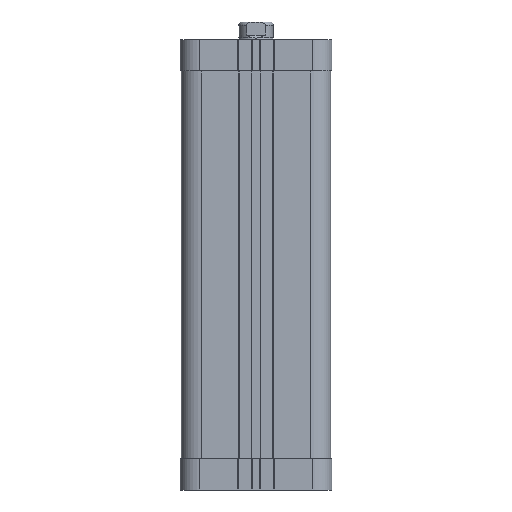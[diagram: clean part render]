
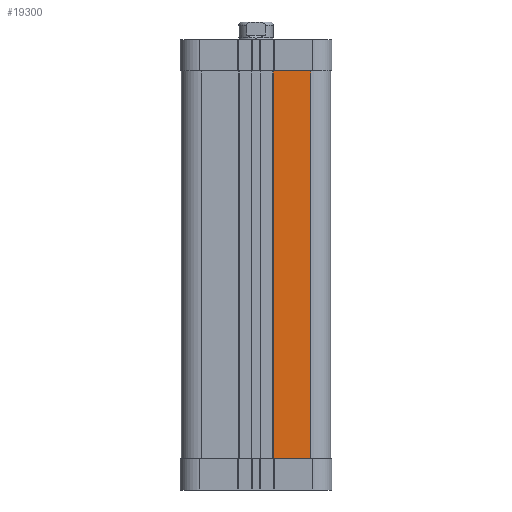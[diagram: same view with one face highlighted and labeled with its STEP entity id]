
A CAD part, left-side view. The second image highlights one B-rep face of the part: STEP entity #19300.
In plain terms, the highlighted planar face has unit normal (-1, 0, 0).
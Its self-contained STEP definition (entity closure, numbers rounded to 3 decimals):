
#2895 = CARTESIAN_POINT ( 'NONE',  ( -34., -7.925, -176.4 ) ) ;
#2925 = VECTOR ( 'NONE', #20940, 1000. ) ;
#5716 = LINE ( 'NONE', #36509, #24805 ) ;
#5834 = ORIENTED_EDGE ( 'NONE', *, *, #30930, .F. ) ;
#5850 = VERTEX_POINT ( 'NONE', #17113 ) ;
#6070 = DIRECTION ( 'NONE',  ( -1., 0., 0. ) ) ;
#9399 = CARTESIAN_POINT ( 'NONE',  ( -34., -7.925, 0. ) ) ;
#9974 = LINE ( 'NONE', #9399, #29078 ) ;
#10819 = VERTEX_POINT ( 'NONE', #34988 ) ;
#11542 = PLANE ( 'NONE',  #31408 ) ;
#11815 = EDGE_LOOP ( 'NONE', ( #5834, #29446, #22266, #19323 ) ) ;
#12114 = FACE_OUTER_BOUND ( 'NONE', #11815, .T. ) ;
#12593 = DIRECTION ( 'NONE',  ( 0., -1., 0. ) ) ;
#13264 = EDGE_CURVE ( 'NONE', #10819, #27687, #15655, .T. ) ;
#15619 = CARTESIAN_POINT ( 'NONE',  ( -34., -7.925, -176.4 ) ) ;
#15655 = LINE ( 'NONE', #15619, #2925 ) ;
#17113 = CARTESIAN_POINT ( 'NONE',  ( -34., -25., 0. ) ) ;
#19105 = EDGE_CURVE ( 'NONE', #10819, #21661, #20726, .T. ) ;
#19300 = ADVANCED_FACE ( 'NONE', ( #12114 ), #11542, .T. ) ;
#19323 = ORIENTED_EDGE ( 'NONE', *, *, #19546, .T. ) ;
#19546 = EDGE_CURVE ( 'NONE', #27687, #5850, #5716, .T. ) ;
#20726 = LINE ( 'NONE', #31255, #31712 ) ;
#20940 = DIRECTION ( 'NONE',  ( 0., -1., 0. ) ) ;
#21661 = VERTEX_POINT ( 'NONE', #28578 ) ;
#22109 = DIRECTION ( 'NONE',  ( 0., 0., 1. ) ) ;
#22266 = ORIENTED_EDGE ( 'NONE', *, *, #13264, .T. ) ;
#23305 = CARTESIAN_POINT ( 'NONE',  ( -34., -25., -176.4 ) ) ;
#24805 = VECTOR ( 'NONE', #22109, 1000. ) ;
#26398 = DIRECTION ( 'NONE',  ( 0., 0., 1. ) ) ;
#27687 = VERTEX_POINT ( 'NONE', #23305 ) ;
#28578 = CARTESIAN_POINT ( 'NONE',  ( -34., -7.925, 0. ) ) ;
#29078 = VECTOR ( 'NONE', #12593, 1000. ) ;
#29446 = ORIENTED_EDGE ( 'NONE', *, *, #19105, .F. ) ;
#30930 = EDGE_CURVE ( 'NONE', #21661, #5850, #9974, .T. ) ;
#31255 = CARTESIAN_POINT ( 'NONE',  ( -34., -7.925, -176.4 ) ) ;
#31408 = AXIS2_PLACEMENT_3D ( 'NONE', #2895, #6070, #32007 ) ;
#31712 = VECTOR ( 'NONE', #26398, 1000. ) ;
#32007 = DIRECTION ( 'NONE',  ( 0., -1., 0. ) ) ;
#34988 = CARTESIAN_POINT ( 'NONE',  ( -34., -7.925, -176.4 ) ) ;
#36509 = CARTESIAN_POINT ( 'NONE',  ( -34., -25., -176.4 ) ) ;
